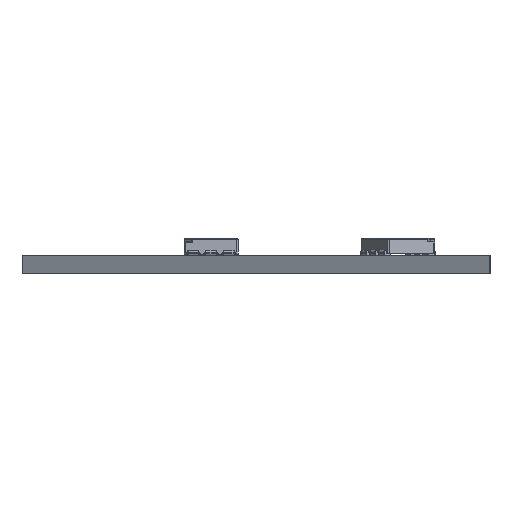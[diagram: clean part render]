
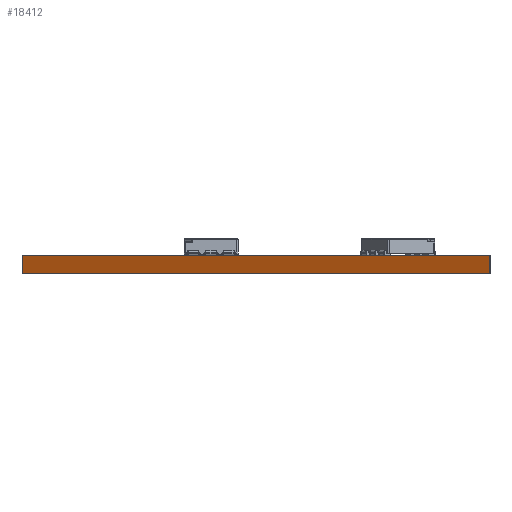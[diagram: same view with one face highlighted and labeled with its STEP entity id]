
A CAD part, left-side view. The second image highlights one B-rep face of the part: STEP entity #18412.
In plain terms, the highlighted planar face has unit normal (-0.866, 0.5, 0).
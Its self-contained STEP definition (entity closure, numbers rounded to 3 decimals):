
#1087=PLANE('',#19725);
#1683=FACE_OUTER_BOUND('',#2635,.T.);
#2635=EDGE_LOOP('',(#13118,#13119,#13120,#13121));
#3950=LINE('',#27596,#5596);
#3955=LINE('',#27605,#5601);
#3956=LINE('',#27607,#5602);
#3957=LINE('',#27608,#5603);
#5596=VECTOR('',#22285,10.);
#5601=VECTOR('',#22292,10.);
#5602=VECTOR('',#22295,10.);
#5603=VECTOR('',#22296,10.);
#8357=VERTEX_POINT('',#27593);
#8358=VERTEX_POINT('',#27595);
#8360=VERTEX_POINT('',#27601);
#8361=VERTEX_POINT('',#27603);
#10262=EDGE_CURVE('',#8357,#8358,#3950,.T.);
#10267=EDGE_CURVE('',#8360,#8361,#3955,.T.);
#10268=EDGE_CURVE('',#8357,#8360,#3956,.T.);
#10269=EDGE_CURVE('',#8358,#8361,#3957,.T.);
#13118=ORIENTED_EDGE('',*,*,#10268,.T.);
#13119=ORIENTED_EDGE('',*,*,#10267,.T.);
#13120=ORIENTED_EDGE('',*,*,#10269,.F.);
#13121=ORIENTED_EDGE('',*,*,#10262,.F.);
#18412=ADVANCED_FACE('',(#1683),#1087,.T.);
#19725=AXIS2_PLACEMENT_3D('',#27606,#22293,#22294);
#22285=DIRECTION('',(0.,0.,1.));
#22292=DIRECTION('',(0.,0.,1.));
#22293=DIRECTION('center_axis',(-0.866,0.5,0.));
#22294=DIRECTION('ref_axis',(-0.5,-0.866,0.));
#22295=DIRECTION('',(-0.5,-0.866,0.));
#22296=DIRECTION('',(-0.5,-0.866,0.));
#27593=CARTESIAN_POINT('',(25.,43.301,0.));
#27595=CARTESIAN_POINT('',(25.,43.301,1.67));
#27596=CARTESIAN_POINT('',(25.,43.301,0.));
#27601=CARTESIAN_POINT('',(0.,0.,0.));
#27603=CARTESIAN_POINT('',(0.,0.,1.67));
#27605=CARTESIAN_POINT('',(0.,0.,0.));
#27606=CARTESIAN_POINT('Origin',(25.,43.301,0.));
#27607=CARTESIAN_POINT('',(25.,43.301,0.));
#27608=CARTESIAN_POINT('',(25.,43.301,1.67));
